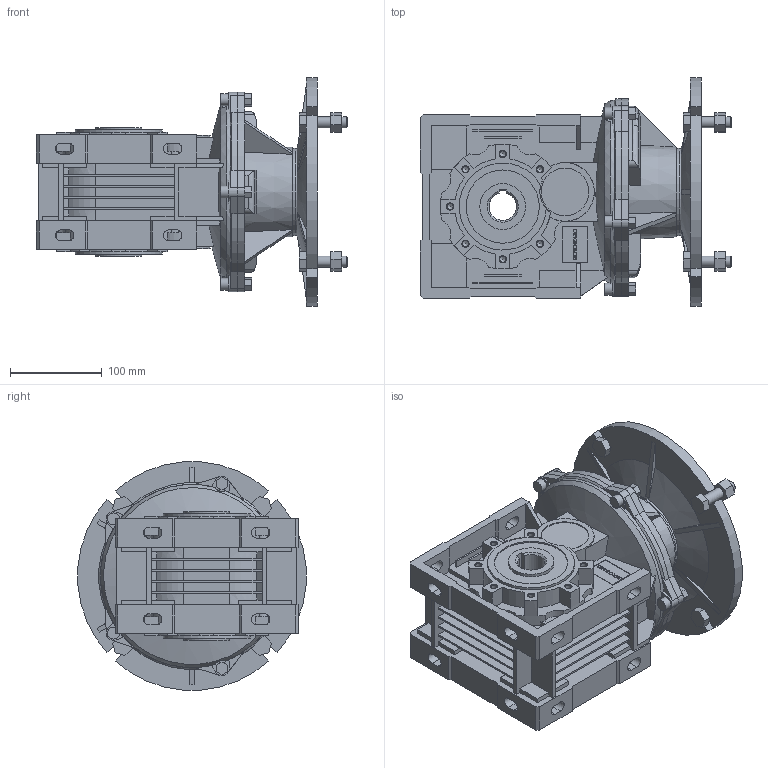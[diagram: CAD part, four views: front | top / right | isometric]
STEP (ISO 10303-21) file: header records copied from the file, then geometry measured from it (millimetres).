
FILE_DESCRIPTION(/* description */ ('STEP AP214'),/* implementation_level */ '2;1');
FILE_NAME(/* name */ 'BA72C100-112 B5300000-0NO----(---------------)',/* time_stamp */ '2024-11-29T11:51:24+01:00',/* author */ ('License CC BY-ND 4.0'),/* organization */ ('CADENAS'),/* preprocessor_version */ 'ST-DEVELOPER v19.3',/* originating_system */ 'PARTsolutions',/* authorisation */ ' ');
FILE_SCHEMA (('AUTOMOTIVE_DESIGN {1 0 10303 214 3 1 1}'));
Length unit declared in the file: millimetre
Products named in the file (6): BA72C100-112 B5300000-0NO----(---------------); A72-U-50; A72-30-C; A72-BA-28; A72-100-112 B5-B; BA72-28
Assembly tree (5 placements, depth 2):
  BA72C100-112 B5300000-0NO----(---------------)
    A72-U-50
    A72-30-C
    A72-BA-28
    A72-100-112 B5-B
    BA72-28
Bounding box: 340 x 249.17 x 249.17 mm (x, y, z)
Volume: 4887193.9 mm3; surface area: 733733.4 mm2
Topology: 5 solids, 5 shells, 1020 faces, 2780 edges, 1832 vertices
Faces by surface type: plane 735, cylinder 223, cone 56, torus 6
Full cylindrical faces by diameter (mm): 3.627 x3, 6.647 x14, 12 x8, 13 x11, 40 x1, 50 x2, 52 x2, 60 x1, 62 x1, 64.5 x1, 68 x2, 80 x2, 95 x2, 177.871 x1, 180 x1, 188 x2
Entity records: 38884 total; most frequent: CARTESIAN_POINT 5989, ORIENTED_EDGE 5332, DIRECTION 5213, EDGE_CURVE 2666, LINE 1895, VECTOR 1895, VERTEX_POINT 1821, AXIS2_PLACEMENT_3D 1659
